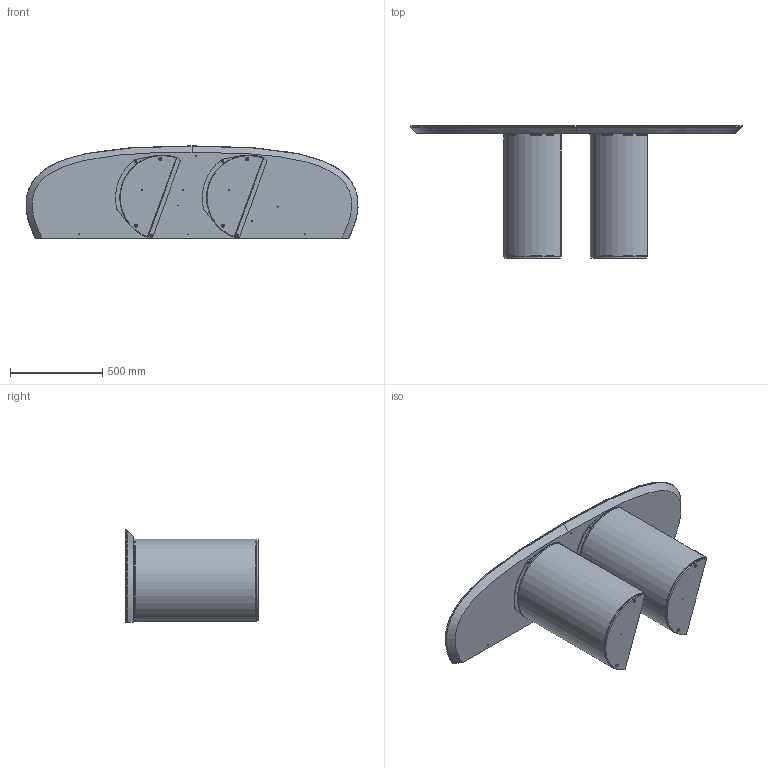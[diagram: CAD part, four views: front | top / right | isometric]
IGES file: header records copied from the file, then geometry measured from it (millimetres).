
Start section: SolidWorks IGES file using analytic representation for surfaces
Global section: file name: Y:\eforma\TECNICO\SOLIDWORKS\E-FORMA\3-CONSOLE\PLAI CONSOLE\02 parts\PL61C_Plai Console_180x50x72h_Ceramic.IGS; native system: SolidWorks 2022; preprocessor: SolidWorks 2022; author: eforma.tech; date: 240806.115612; units: millimetre
Bounding box: 1799.15 x 719 x 500 mm (x, y, z)
Volume: 38056510.6 mm3; surface area: 7636725.6 mm2
Topology: 18 solids, 18 shells, 398 faces, 913 edges, 527 vertices
Faces by surface type: revolution 246, plane 146, bspline 6
